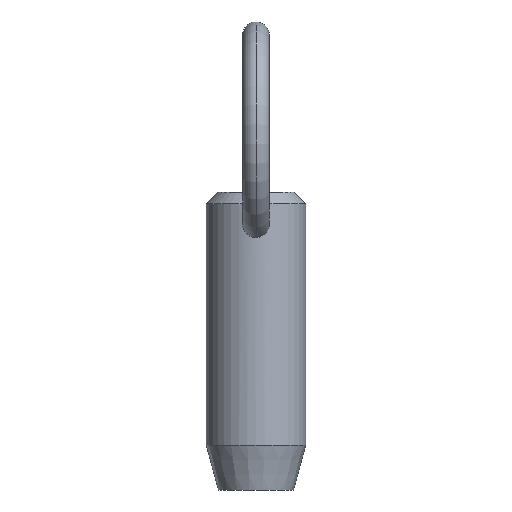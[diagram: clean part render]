
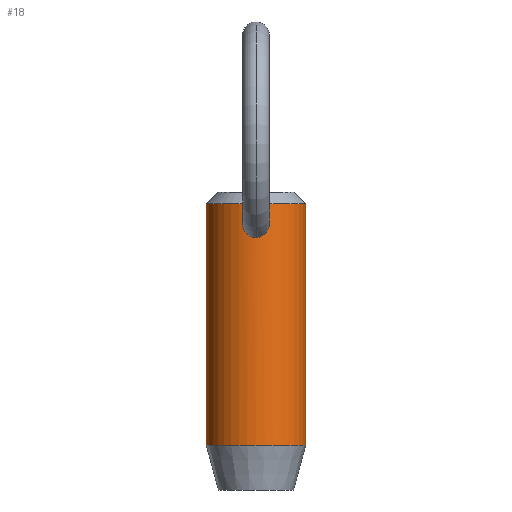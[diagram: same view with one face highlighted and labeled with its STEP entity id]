
A CAD part, front view. The second image highlights one B-rep face of the part: STEP entity #18.
In plain terms, the highlighted cylindrical face has radius 5.55 mm (diameter 11.1 mm), a partial arc.
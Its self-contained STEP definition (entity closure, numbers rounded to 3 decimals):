
#13 = CARTESIAN_POINT ( 'NONE',  ( 0., -5.55, 17.445 ) ) ;
#17 = CYLINDRICAL_SURFACE ( 'NONE', #190, 5.55 ) ;
#18 = ADVANCED_FACE ( 'NONE', ( #439, #216 ), #17, .T. ) ;
#23 = CARTESIAN_POINT ( 'NONE',  ( 1.455, -5.356, 15.138 ) ) ;
#25 = CARTESIAN_POINT ( 'NONE',  ( 0., -5.55, 17.445 ) ) ;
#31 = CARTESIAN_POINT ( 'NONE',  ( -0.785, -5.497, 17.158 ) ) ;
#32 = CARTESIAN_POINT ( 'NONE',  ( -5.55, 0., 12.7 ) ) ;
#36 = CARTESIAN_POINT ( 'NONE',  ( -0.523, -5.526, 14.066 ) ) ;
#60 = CARTESIAN_POINT ( 'NONE',  ( 1.363, -5.38, 14.834 ) ) ;
#69 = VERTEX_POINT ( 'NONE', #426 ) ;
#71 = CARTESIAN_POINT ( 'NONE',  ( -1.455, -5.356, 15.136 ) ) ;
#87 = ORIENTED_EDGE ( 'NONE', *, *, #313, .T. ) ;
#93 = DIRECTION ( 'NONE',  ( 0., 0., -1. ) ) ;
#99 = CARTESIAN_POINT ( 'NONE',  ( 1.486, -5.347, 15.874 ) ) ;
#107 = VERTEX_POINT ( 'NONE', #394 ) ;
#108 = CARTESIAN_POINT ( 'NONE',  ( -1.054, -5.449, 14.404 ) ) ;
#109 = CARTESIAN_POINT ( 'NONE',  ( -0.716, -5.504, 14.152 ) ) ;
#117 = ORIENTED_EDGE ( 'NONE', *, *, #487, .F. ) ;
#127 = CARTESIAN_POINT ( 'NONE',  ( 1.477, -5.35, 15.244 ) ) ;
#128 = CIRCLE ( 'NONE', #295, 5.55 ) ;
#129 = CARTESIAN_POINT ( 'NONE',  ( 1.194, -5.422, 16.671 ) ) ;
#135 = LINE ( 'NONE', #511, #203 ) ;
#136 = ORIENTED_EDGE ( 'NONE', *, *, #424, .T. ) ;
#140 = B_SPLINE_CURVE_WITH_KNOTS ( 'NONE', 3,
 ( #25, #267, #315, #361, #154, #451, #418, #129, #376, #367, #99, #507, #237, #127, #23, #60, #457, #499, #161, #460, #275, #370, #324, #415, #163, #205 ),
 .UNSPECIFIED., .F., .F.,
 ( 4, 2, 2, 2, 2, 2, 2, 2, 2, 2, 2, 2, 4 ),
 ( 0.005, 0.005, 0.005, 0.006, 0.006, 0.007, 0.007, 0.008, 0.008, 0.009, 0.009, 0.009, 0.01 ),
 .UNSPECIFIED. ) ;
#148 = VECTOR ( 'NONE', #509, 1000. ) ;
#154 = CARTESIAN_POINT ( 'NONE',  ( 0.515, -5.527, 17.322 ) ) ;
#161 = CARTESIAN_POINT ( 'NONE',  ( 0.977, -5.464, 14.332 ) ) ;
#163 = CARTESIAN_POINT ( 'NONE',  ( 0.107, -5.55, 13.977 ) ) ;
#173 = VERTEX_POINT ( 'NONE', #352 ) ;
#190 = AXIS2_PLACEMENT_3D ( 'NONE', #468, #514, #241 ) ;
#200 = ORIENTED_EDGE ( 'NONE', *, *, #252, .T. ) ;
#203 = VECTOR ( 'NONE', #282, 1000. ) ;
#205 = CARTESIAN_POINT ( 'NONE',  ( 0., -5.55, 13.977 ) ) ;
#206 = CARTESIAN_POINT ( 'NONE',  ( -1.195, -5.421, 16.671 ) ) ;
#212 = CARTESIAN_POINT ( 'NONE',  ( -0.976, -5.464, 14.331 ) ) ;
#216 = FACE_BOUND ( 'NONE', #420, .T. ) ;
#232 = ORIENTED_EDGE ( 'NONE', *, *, #407, .T. ) ;
#237 = CARTESIAN_POINT ( 'NONE',  ( 1.5, -5.343, 15.454 ) ) ;
#241 = DIRECTION ( 'NONE',  ( -1., 0., 0. ) ) ;
#242 = CARTESIAN_POINT ( 'NONE',  ( -0.107, -5.55, 13.977 ) ) ;
#246 = CARTESIAN_POINT ( 'NONE',  ( -0.939, -5.472, 17.01 ) ) ;
#249 = CARTESIAN_POINT ( 'NONE',  ( -1.362, -5.381, 14.832 ) ) ;
#251 = VERTEX_POINT ( 'NONE', #385 ) ;
#252 = EDGE_CURVE ( 'NONE', #69, #307, #347, .T. ) ;
#255 = CARTESIAN_POINT ( 'NONE',  ( -0.42, -5.535, 14.032 ) ) ;
#267 = CARTESIAN_POINT ( 'NONE',  ( 0.106, -5.55, 17.445 ) ) ;
#275 = CARTESIAN_POINT ( 'NONE',  ( 0.716, -5.504, 14.152 ) ) ;
#279 = EDGE_CURVE ( 'NONE', #307, #69, #140, .T. ) ;
#282 = DIRECTION ( 'NONE',  ( 0., 0., -1. ) ) ;
#287 = CARTESIAN_POINT ( 'NONE',  ( 0., -5.55, 13.977 ) ) ;
#292 = CARTESIAN_POINT ( 'NONE',  ( -1.26, -5.407, 14.642 ) ) ;
#295 = AXIS2_PLACEMENT_3D ( 'NONE', #445, #403, #446 ) ;
#307 = VERTEX_POINT ( 'NONE', #492 ) ;
#313 = EDGE_CURVE ( 'NONE', #251, #173, #128, .T. ) ;
#315 = CARTESIAN_POINT ( 'NONE',  ( 0.214, -5.547, 17.428 ) ) ;
#320 = CARTESIAN_POINT ( 'NONE',  ( 0., 0., 17.75 ) ) ;
#324 = CARTESIAN_POINT ( 'NONE',  ( 0.421, -5.535, 14.032 ) ) ;
#345 = CARTESIAN_POINT ( 'NONE',  ( -1.503, -5.343, 15.559 ) ) ;
#347 = B_SPLINE_CURVE_WITH_KNOTS ( 'NONE', 3,
 ( #287, #242, #427, #255, #36, #109, #392, #212, #108, #292, #249, #71, #386, #476, #345, #432, #430, #474, #206, #246, #31, #519, #436, #494, #496, #13 ),
 .UNSPECIFIED., .F., .F.,
 ( 4, 2, 2, 2, 2, 2, 2, 2, 2, 2, 2, 2, 4 ),
 ( 0.01, 0.01, 0.01, 0.011, 0.011, 0.012, 0.012, 0.012, 0.013, 0.013, 0.014, 0.014, 0.015 ),
 .UNSPECIFIED. ) ;
#351 = VERTEX_POINT ( 'NONE', #486 ) ;
#352 = CARTESIAN_POINT ( 'NONE',  ( 5.55, 0., -9.2 ) ) ;
#361 = CARTESIAN_POINT ( 'NONE',  ( 0.417, -5.535, 17.367 ) ) ;
#367 = CARTESIAN_POINT ( 'NONE',  ( 1.44, -5.36, 16.086 ) ) ;
#370 = CARTESIAN_POINT ( 'NONE',  ( 0.523, -5.526, 14.066 ) ) ;
#375 = LINE ( 'NONE', #32, #148 ) ;
#376 = CARTESIAN_POINT ( 'NONE',  ( 1.295, -5.397, 16.482 ) ) ;
#380 = AXIS2_PLACEMENT_3D ( 'NONE', #320, #93, #525 ) ;
#385 = CARTESIAN_POINT ( 'NONE',  ( -5.55, 0., -9.2 ) ) ;
#386 = CARTESIAN_POINT ( 'NONE',  ( -1.477, -5.35, 15.242 ) ) ;
#387 = CIRCLE ( 'NONE', #380, 5.55 ) ;
#392 = CARTESIAN_POINT ( 'NONE',  ( -0.807, -5.492, 14.205 ) ) ;
#394 = CARTESIAN_POINT ( 'NONE',  ( 5.55, 0., 17.75 ) ) ;
#403 = DIRECTION ( 'NONE',  ( 0., 0., 1. ) ) ;
#407 = EDGE_CURVE ( 'NONE', #107, #351, #387, .T. ) ;
#415 = CARTESIAN_POINT ( 'NONE',  ( 0.213, -5.547, 13.988 ) ) ;
#418 = CARTESIAN_POINT ( 'NONE',  ( 0.941, -5.471, 17.007 ) ) ;
#420 = EDGE_LOOP ( 'NONE', ( #467, #200 ) ) ;
#424 = EDGE_CURVE ( 'NONE', #351, #251, #375, .T. ) ;
#426 = CARTESIAN_POINT ( 'NONE',  ( 0., -5.55, 13.977 ) ) ;
#427 = CARTESIAN_POINT ( 'NONE',  ( -0.212, -5.547, 13.988 ) ) ;
#430 = CARTESIAN_POINT ( 'NONE',  ( -1.44, -5.36, 16.087 ) ) ;
#432 = CARTESIAN_POINT ( 'NONE',  ( -1.485, -5.348, 15.879 ) ) ;
#436 = CARTESIAN_POINT ( 'NONE',  ( -0.416, -5.535, 17.367 ) ) ;
#439 = FACE_OUTER_BOUND ( 'NONE', #505, .T. ) ;
#445 = CARTESIAN_POINT ( 'NONE',  ( 0., 0., -9.2 ) ) ;
#446 = DIRECTION ( 'NONE',  ( -1., 0., 0. ) ) ;
#451 = CARTESIAN_POINT ( 'NONE',  ( 0.786, -5.497, 17.157 ) ) ;
#457 = CARTESIAN_POINT ( 'NONE',  ( 1.26, -5.407, 14.643 ) ) ;
#460 = CARTESIAN_POINT ( 'NONE',  ( 0.807, -5.492, 14.206 ) ) ;
#467 = ORIENTED_EDGE ( 'NONE', *, *, #279, .T. ) ;
#468 = CARTESIAN_POINT ( 'NONE',  ( 0., 0., 12.7 ) ) ;
#474 = CARTESIAN_POINT ( 'NONE',  ( -1.294, -5.398, 16.486 ) ) ;
#476 = CARTESIAN_POINT ( 'NONE',  ( -1.5, -5.343, 15.453 ) ) ;
#486 = CARTESIAN_POINT ( 'NONE',  ( -5.55, 0., 17.75 ) ) ;
#487 = EDGE_CURVE ( 'NONE', #107, #173, #135, .T. ) ;
#492 = CARTESIAN_POINT ( 'NONE',  ( 0., -5.55, 17.445 ) ) ;
#494 = CARTESIAN_POINT ( 'NONE',  ( -0.211, -5.547, 17.429 ) ) ;
#496 = CARTESIAN_POINT ( 'NONE',  ( -0.106, -5.55, 17.445 ) ) ;
#499 = CARTESIAN_POINT ( 'NONE',  ( 1.055, -5.449, 14.405 ) ) ;
#505 = EDGE_LOOP ( 'NONE', ( #117, #232, #136, #87 ) ) ;
#507 = CARTESIAN_POINT ( 'NONE',  ( 1.503, -5.343, 15.559 ) ) ;
#509 = DIRECTION ( 'NONE',  ( 0., 0., -1. ) ) ;
#511 = CARTESIAN_POINT ( 'NONE',  ( 5.55, 0., 12.7 ) ) ;
#514 = DIRECTION ( 'NONE',  ( 0., 0., -1. ) ) ;
#519 = CARTESIAN_POINT ( 'NONE',  ( -0.513, -5.527, 17.323 ) ) ;
#525 = DIRECTION ( 'NONE',  ( 1., 0., 0. ) ) ;
